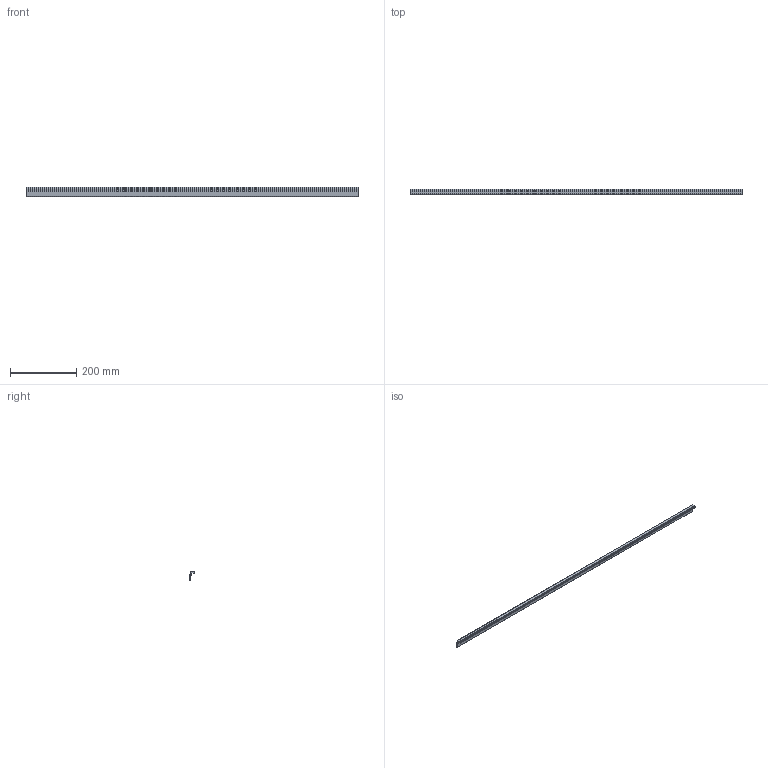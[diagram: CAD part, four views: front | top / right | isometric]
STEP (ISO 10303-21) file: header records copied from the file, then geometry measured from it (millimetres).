
FILE_DESCRIPTION (( 'STEP AP214' ), '1' );
FILE_NAME ('10634_WINAL.STEP', '2016-05-02T10:34:51', ( '' ), ( '' ), 'SwSTEP 2.0', 'SolidWorks 2015', '' );
FILE_SCHEMA (( 'AUTOMOTIVE_DESIGN' ));
Length unit declared in the file: millimetre
Products named in the file (1): 10634_WINAL
Bounding box: 1000 x 16.49 x 27.5 mm (x, y, z)
Volume: 121446.5 mm3; surface area: 86547.3 mm2
Topology: 1 solids, 1 shells, 46 faces, 132 edges, 88 vertices
Faces by surface type: plane 34, cylinder 12
Entity records: 1534 total; most frequent: CARTESIAN_POINT 267, ORIENTED_EDGE 264, DIRECTION 250, EDGE_CURVE 132, VECTOR 108, LINE 108, VERTEX_POINT 88, AXIS2_PLACEMENT_3D 71
